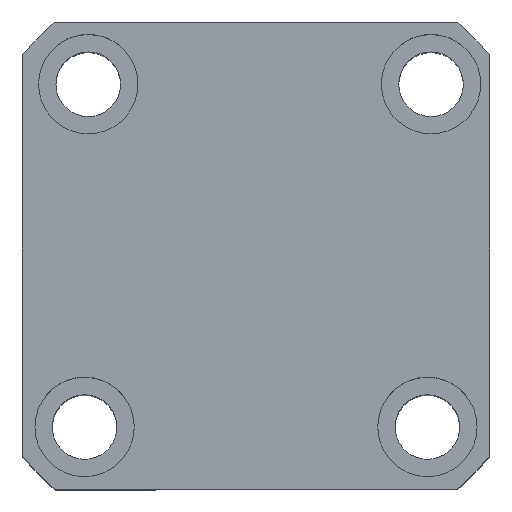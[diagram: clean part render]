
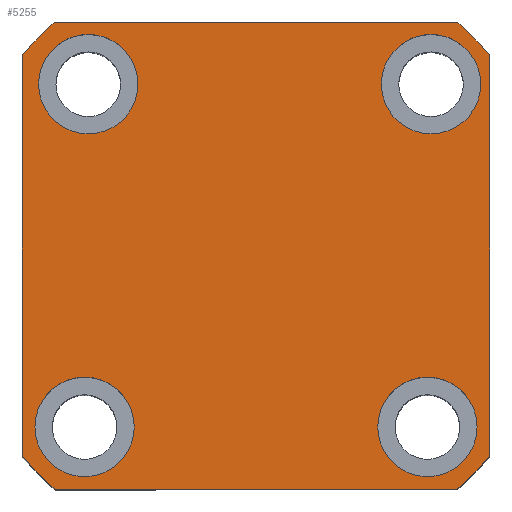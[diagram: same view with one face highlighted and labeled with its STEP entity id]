
A CAD part, top view. The second image highlights one B-rep face of the part: STEP entity #5255.
In plain terms, the highlighted planar face has unit normal (0, 0, 1) as drawn and (0, 0, -1) by its records, which use the part's own axes.
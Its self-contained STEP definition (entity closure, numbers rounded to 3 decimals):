
#181 = LINE ( 'NONE', #4421, #7057 ) ;
#241 = AXIS2_PLACEMENT_3D ( 'NONE', #12622, #4378, #14009 ) ;
#284 = VERTEX_POINT ( 'NONE', #12210 ) ;
#300 = DIRECTION ( 'NONE',  ( 0., 0., -1. ) ) ;
#447 = CARTESIAN_POINT ( 'NONE',  ( 34.5, 34.5, 0. ) ) ;
#488 = ORIENTED_EDGE ( 'NONE', *, *, #17512, .F. ) ;
#1069 = CARTESIAN_POINT ( 'NONE',  ( 47., -40.435, 0. ) ) ;
#1105 = CARTESIAN_POINT ( 'NONE',  ( -34.5, 34.5, 0. ) ) ;
#1371 = VERTEX_POINT ( 'NONE', #2613 ) ;
#1521 = EDGE_LOOP ( 'NONE', ( #14153, #8886 ) ) ;
#1668 = EDGE_CURVE ( 'NONE', #11287, #8739, #181, .T. ) ;
#1820 = ORIENTED_EDGE ( 'NONE', *, *, #11820, .F. ) ;
#1845 = DIRECTION ( 'NONE',  ( -1., 0., 0. ) ) ;
#1955 = FACE_BOUND ( 'NONE', #12483, .T. ) ;
#1956 = EDGE_LOOP ( 'NONE', ( #10979, #7917 ) ) ;
#2025 = AXIS2_PLACEMENT_3D ( 'NONE', #11703, #3479, #13091 ) ;
#2119 = CARTESIAN_POINT ( 'NONE',  ( 35.23, -34.5, 0. ) ) ;
#2258 = ORIENTED_EDGE ( 'NONE', *, *, #5628, .F. ) ;
#2290 = AXIS2_PLACEMENT_3D ( 'NONE', #11702, #3478, #13090 ) ;
#2383 = VERTEX_POINT ( 'NONE', #5885 ) ;
#2491 = DIRECTION ( 'NONE',  ( -1., 0., 0. ) ) ;
#2613 = CARTESIAN_POINT ( 'NONE',  ( 25.23, -34.5, 0. ) ) ;
#2927 = AXIS2_PLACEMENT_3D ( 'NONE', #12066, #3822, #13439 ) ;
#3177 = VERTEX_POINT ( 'NONE', #6135 ) ;
#3191 = CIRCLE ( 'NONE', #9802, 62. ) ;
#3266 = ORIENTED_EDGE ( 'NONE', *, *, #5254, .F. ) ;
#3351 = DIRECTION ( 'NONE',  ( 0., 0., 1. ) ) ;
#3419 = EDGE_CURVE ( 'NONE', #14349, #3463, #11396, .T. ) ;
#3463 = VERTEX_POINT ( 'NONE', #14338 ) ;
#3478 = DIRECTION ( 'NONE',  ( 0., 0., -1. ) ) ;
#3479 = DIRECTION ( 'NONE',  ( 0., 0., -1. ) ) ;
#3489 = DIRECTION ( 'NONE',  ( -1., 0., 0. ) ) ;
#3682 = DIRECTION ( 'NONE',  ( 0., 1., 0. ) ) ;
#3749 = CARTESIAN_POINT ( 'NONE',  ( -40.435, -47., 0. ) ) ;
#3822 = DIRECTION ( 'NONE',  ( 0., 0., 1. ) ) ;
#3835 = DIRECTION ( 'NONE',  ( 0., 0., -1. ) ) ;
#3934 = DIRECTION ( 'NONE',  ( 0., 0., 1. ) ) ;
#4099 = CARTESIAN_POINT ( 'NONE',  ( -40.435, 47., 0. ) ) ;
#4208 = CIRCLE ( 'NONE', #10338, 10. ) ;
#4378 = DIRECTION ( 'NONE',  ( 0., 0., 1. ) ) ;
#4421 = CARTESIAN_POINT ( 'NONE',  ( -47., -47., 0. ) ) ;
#4804 = CARTESIAN_POINT ( 'NONE',  ( 47., 47., 0. ) ) ;
#4887 = VECTOR ( 'NONE', #7326, 1000. ) ;
#5103 = ORIENTED_EDGE ( 'NONE', *, *, #3419, .F. ) ;
#5160 = CIRCLE ( 'NONE', #6938, 10. ) ;
#5224 = CARTESIAN_POINT ( 'NONE',  ( 44.5, 34.5, 0. ) ) ;
#5254 = EDGE_CURVE ( 'NONE', #8768, #5458, #5160, .T. ) ;
#5255 = ADVANCED_FACE ( 'NONE', ( #8787, #1955, #12479, #16581, #16155 ), #12558, .F. ) ;
#5458 = VERTEX_POINT ( 'NONE', #7314 ) ;
#5468 = ORIENTED_EDGE ( 'NONE', *, *, #1668, .F. ) ;
#5628 = EDGE_CURVE ( 'NONE', #5458, #8768, #7944, .T. ) ;
#5744 = DIRECTION ( 'NONE',  ( 0., 0., -1. ) ) ;
#5746 = EDGE_CURVE ( 'NONE', #8739, #8628, #7520, .T. ) ;
#5774 = EDGE_CURVE ( 'NONE', #3463, #284, #10715, .T. ) ;
#5885 = CARTESIAN_POINT ( 'NONE',  ( 45.23, -34.5, 0. ) ) ;
#6007 = EDGE_LOOP ( 'NONE', ( #488, #9003, #6397, #5468, #10399, #14179, #5103, #1820 ) ) ;
#6135 = CARTESIAN_POINT ( 'NONE',  ( 24.5, 34.5, 0. ) ) ;
#6367 = EDGE_CURVE ( 'NONE', #15231, #3177, #15062, .T. ) ;
#6397 = ORIENTED_EDGE ( 'NONE', *, *, #5746, .F. ) ;
#6561 = VECTOR ( 'NONE', #3682, 1000. ) ;
#6938 = AXIS2_PLACEMENT_3D ( 'NONE', #14000, #5744, #15383 ) ;
#7057 = VECTOR ( 'NONE', #15433, 1000. ) ;
#7072 = VECTOR ( 'NONE', #14848, 1000. ) ;
#7128 = DIRECTION ( 'NONE',  ( 0., 0., 1. ) ) ;
#7157 = CARTESIAN_POINT ( 'NONE',  ( 40.435, 47., 0. ) ) ;
#7195 = EDGE_CURVE ( 'NONE', #7903, #10371, #14401, .T. ) ;
#7231 = VERTEX_POINT ( 'NONE', #14809 ) ;
#7279 = ORIENTED_EDGE ( 'NONE', *, *, #14814, .F. ) ;
#7314 = CARTESIAN_POINT ( 'NONE',  ( -43.77, -34.5, 0. ) ) ;
#7326 = DIRECTION ( 'NONE',  ( -1., 0., 0. ) ) ;
#7520 = CIRCLE ( 'NONE', #2927, 62. ) ;
#7870 = CARTESIAN_POINT ( 'NONE',  ( -44.5, 34.5, 0. ) ) ;
#7903 = VERTEX_POINT ( 'NONE', #15612 ) ;
#7917 = ORIENTED_EDGE ( 'NONE', *, *, #6367, .F. ) ;
#7944 = CIRCLE ( 'NONE', #2025, 10. ) ;
#8524 = CARTESIAN_POINT ( 'NONE',  ( -34.5, 34.5, 0. ) ) ;
#8530 = CIRCLE ( 'NONE', #17794, 10. ) ;
#8628 = VERTEX_POINT ( 'NONE', #1069 ) ;
#8665 = AXIS2_PLACEMENT_3D ( 'NONE', #1105, #10671, #2491 ) ;
#8739 = VERTEX_POINT ( 'NONE', #13487 ) ;
#8768 = VERTEX_POINT ( 'NONE', #14834 ) ;
#8787 = FACE_BOUND ( 'NONE', #13771, .T. ) ;
#8790 = EDGE_CURVE ( 'NONE', #284, #11287, #3191, .T. ) ;
#8886 = ORIENTED_EDGE ( 'NONE', *, *, #7195, .F. ) ;
#9003 = ORIENTED_EDGE ( 'NONE', *, *, #13209, .F. ) ;
#9770 = CIRCLE ( 'NONE', #2290, 10. ) ;
#9802 = AXIS2_PLACEMENT_3D ( 'NONE', #12171, #3934, #13549 ) ;
#9807 = CIRCLE ( 'NONE', #14565, 62. ) ;
#9848 = EDGE_CURVE ( 'NONE', #10371, #7903, #8530, .T. ) ;
#9877 = DIRECTION ( 'NONE',  ( -1., 0., 0. ) ) ;
#10013 = DIRECTION ( 'NONE',  ( 0., 0., -1. ) ) ;
#10283 = CARTESIAN_POINT ( 'NONE',  ( -47., 47., 0. ) ) ;
#10338 = AXIS2_PLACEMENT_3D ( 'NONE', #2119, #11716, #3489 ) ;
#10371 = VERTEX_POINT ( 'NONE', #7870 ) ;
#10399 = ORIENTED_EDGE ( 'NONE', *, *, #8790, .F. ) ;
#10671 = DIRECTION ( 'NONE',  ( 0., 0., -1. ) ) ;
#10715 = LINE ( 'NONE', #10283, #7072 ) ;
#10979 = ORIENTED_EDGE ( 'NONE', *, *, #13247, .F. ) ;
#11207 = CARTESIAN_POINT ( 'NONE',  ( 0., 0., 0. ) ) ;
#11275 = AXIS2_PLACEMENT_3D ( 'NONE', #12076, #3835, #13452 ) ;
#11287 = VERTEX_POINT ( 'NONE', #3749 ) ;
#11396 = CIRCLE ( 'NONE', #241, 62. ) ;
#11547 = AXIS2_PLACEMENT_3D ( 'NONE', #11207, #7128, #16780 ) ;
#11564 = CARTESIAN_POINT ( 'NONE',  ( 0., 0., 0. ) ) ;
#11702 = CARTESIAN_POINT ( 'NONE',  ( 34.5, 34.5, 0. ) ) ;
#11703 = CARTESIAN_POINT ( 'NONE',  ( -33.77, -34.5, 0. ) ) ;
#11716 = DIRECTION ( 'NONE',  ( 0., 0., -1. ) ) ;
#11781 = CIRCLE ( 'NONE', #11275, 10. ) ;
#11820 = EDGE_CURVE ( 'NONE', #15956, #14349, #12623, .T. ) ;
#12066 = CARTESIAN_POINT ( 'NONE',  ( 0., 0., 0. ) ) ;
#12076 = CARTESIAN_POINT ( 'NONE',  ( 35.23, -34.5, 0. ) ) ;
#12171 = CARTESIAN_POINT ( 'NONE',  ( 0., 0., 0. ) ) ;
#12210 = CARTESIAN_POINT ( 'NONE',  ( -47., -40.435, 0. ) ) ;
#12479 = FACE_BOUND ( 'NONE', #1521, .T. ) ;
#12483 = EDGE_LOOP ( 'NONE', ( #2258, #3266 ) ) ;
#12558 = PLANE ( 'NONE',  #11547 ) ;
#12622 = CARTESIAN_POINT ( 'NONE',  ( 0., 0., 0. ) ) ;
#12623 = LINE ( 'NONE', #16960, #4887 ) ;
#12837 = ORIENTED_EDGE ( 'NONE', *, *, #15103, .F. ) ;
#12961 = DIRECTION ( 'NONE',  ( 1., 0., 0. ) ) ;
#13090 = DIRECTION ( 'NONE',  ( -1., 0., 0. ) ) ;
#13091 = DIRECTION ( 'NONE',  ( -1., 0., 0. ) ) ;
#13209 = EDGE_CURVE ( 'NONE', #8628, #7231, #14340, .T. ) ;
#13247 = EDGE_CURVE ( 'NONE', #3177, #15231, #9770, .T. ) ;
#13439 = DIRECTION ( 'NONE',  ( 1., 0., 0. ) ) ;
#13452 = DIRECTION ( 'NONE',  ( -1., 0., 0. ) ) ;
#13487 = CARTESIAN_POINT ( 'NONE',  ( 40.435, -47., 0. ) ) ;
#13549 = DIRECTION ( 'NONE',  ( 1., 0., 0. ) ) ;
#13771 = EDGE_LOOP ( 'NONE', ( #7279, #12837 ) ) ;
#14000 = CARTESIAN_POINT ( 'NONE',  ( -33.77, -34.5, 0. ) ) ;
#14009 = DIRECTION ( 'NONE',  ( 1., 0., 0. ) ) ;
#14153 = ORIENTED_EDGE ( 'NONE', *, *, #9848, .F. ) ;
#14179 = ORIENTED_EDGE ( 'NONE', *, *, #5774, .F. ) ;
#14338 = CARTESIAN_POINT ( 'NONE',  ( -47., 40.435, 0. ) ) ;
#14340 = LINE ( 'NONE', #4804, #6561 ) ;
#14349 = VERTEX_POINT ( 'NONE', #4099 ) ;
#14401 = CIRCLE ( 'NONE', #8665, 10. ) ;
#14565 = AXIS2_PLACEMENT_3D ( 'NONE', #11564, #3351, #12961 ) ;
#14809 = CARTESIAN_POINT ( 'NONE',  ( 47., 40.435, 0. ) ) ;
#14814 = EDGE_CURVE ( 'NONE', #1371, #2383, #4208, .T. ) ;
#14834 = CARTESIAN_POINT ( 'NONE',  ( -23.77, -34.5, 0. ) ) ;
#14848 = DIRECTION ( 'NONE',  ( 0., -1., 0. ) ) ;
#14928 = AXIS2_PLACEMENT_3D ( 'NONE', #447, #10013, #1845 ) ;
#15062 = CIRCLE ( 'NONE', #14928, 10. ) ;
#15103 = EDGE_CURVE ( 'NONE', #2383, #1371, #11781, .T. ) ;
#15231 = VERTEX_POINT ( 'NONE', #5224 ) ;
#15383 = DIRECTION ( 'NONE',  ( -1., 0., 0. ) ) ;
#15433 = DIRECTION ( 'NONE',  ( 1., 0., 0. ) ) ;
#15612 = CARTESIAN_POINT ( 'NONE',  ( -24.5, 34.5, 0. ) ) ;
#15956 = VERTEX_POINT ( 'NONE', #7157 ) ;
#16155 = FACE_OUTER_BOUND ( 'NONE', #6007, .T. ) ;
#16581 = FACE_BOUND ( 'NONE', #1956, .T. ) ;
#16780 = DIRECTION ( 'NONE',  ( 1., 0., 0. ) ) ;
#16960 = CARTESIAN_POINT ( 'NONE',  ( -47., 47., 0. ) ) ;
#17512 = EDGE_CURVE ( 'NONE', #7231, #15956, #9807, .T. ) ;
#17794 = AXIS2_PLACEMENT_3D ( 'NONE', #8524, #300, #9877 ) ;
